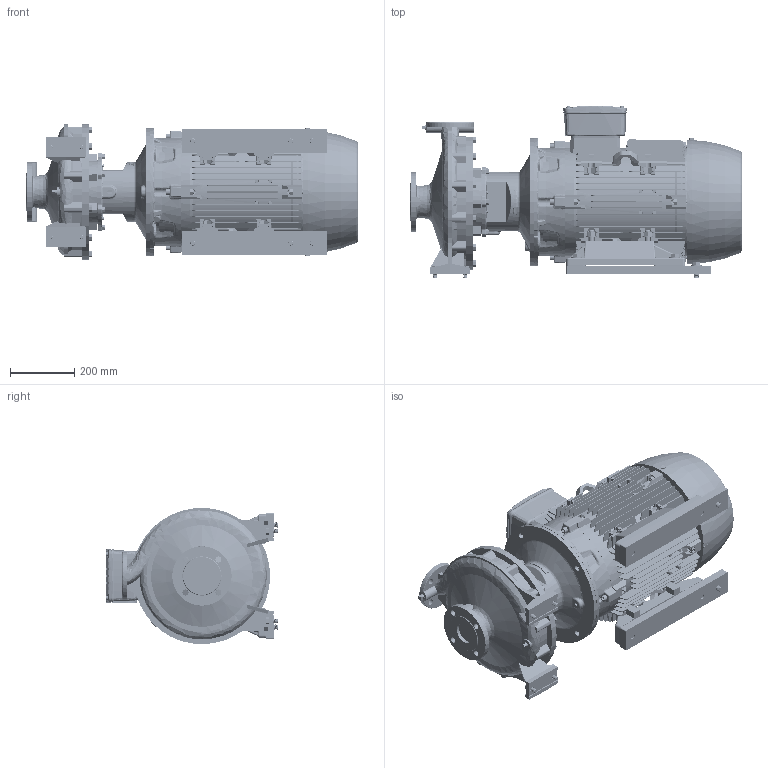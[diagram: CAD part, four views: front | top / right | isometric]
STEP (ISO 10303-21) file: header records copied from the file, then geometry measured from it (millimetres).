
FILE_DESCRIPTION (( 'STEP AP214' ), '1' );
FILE_NAME ('GSD2 40-315_30.0 & 37.0_(200ML)_W21.STEP', '2026-07-02T05:53:07', ( '' ), ( '' ), 'SwSTEP 2.0', 'SolidWorks 2024', '' );
FILE_SCHEMA (( 'AUTOMOTIVE_DESIGN' ));
Length unit declared in the file: millimetre
Products named in the file (11): Parametric bolt and washer_SFT-A359B; Parametric bolt_SFT-A359B; Parametric bolt_SFT-A299B; Parametric Flat Washer_M16; Parametric bolt and washer_SFT-A299B; Parametric Flat Washer_M12; 200M_L ALIE3_W21T_B35; 80x25 - CGSDA-5271; 40-315-200M_L; GSD2  40-315_30.0 & 37.0_(200ML)_W21; Parametric bolt_SFT-A355B
Assembly tree (20 placements, depth 3):
  GSD2  40-315_30.0 & 37.0_(200ML)_W21
    40-315-200M_L
    80x25 - CGSDA-5271  x2
    Parametric bolt and washer_SFT-A299B  x4
      Parametric bolt_SFT-A299B
      Parametric Flat Washer_M12
    Parametric bolt_SFT-A355B  x2
    Parametric Flat Washer_M16  x2
    200M_L ALIE3_W21T_B35
    Parametric bolt and washer_SFT-A359B  x4
      Parametric bolt_SFT-A359B
      Parametric Flat Washer_M16
Bounding box: 1033.8 x 537 x 425 mm (x, y, z)
Volume: 84838768.5 mm3; surface area: 4428359.1 mm2
Topology: 60 solids, 70 shells, 7667 faces, 19895 edges, 12795 vertices
Faces by surface type: plane 4388, cylinder 1414, bspline 1003, cone 640, torus 218, sphere 4
Entity records: 294942 total; most frequent: CARTESIAN_POINT 129849, ORIENTED_EDGE 36912, DIRECTION 29758, EDGE_CURVE 18456, VERTEX_POINT 11937, VECTOR 11186, LINE 11186, AXIS2_PLACEMENT_3D 9286
